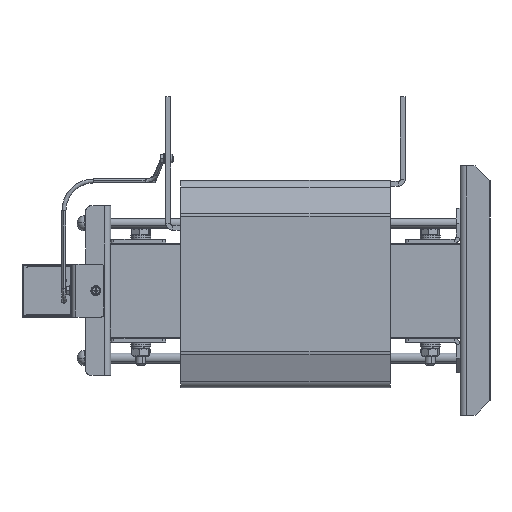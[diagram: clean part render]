
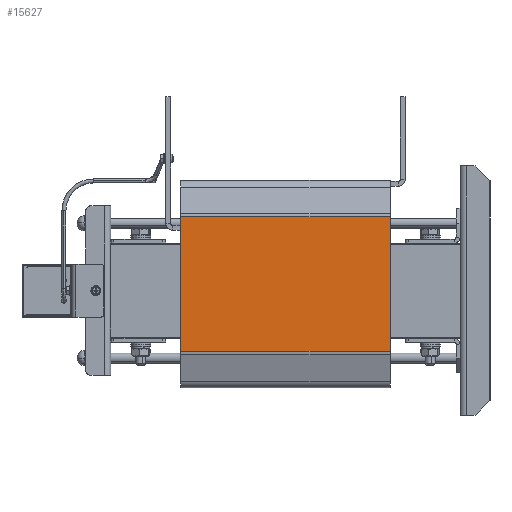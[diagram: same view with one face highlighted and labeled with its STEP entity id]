
A CAD part, left-side view. The second image highlights one B-rep face of the part: STEP entity #15627.
In plain terms, the highlighted planar face has unit normal (-1, 0, 0).
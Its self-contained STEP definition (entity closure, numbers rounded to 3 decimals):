
#210 = VERTEX_POINT ( 'NONE', #24538 ) ;
#289 = CARTESIAN_POINT ( 'NONE',  ( -60., 0., 69.833 ) ) ;
#1075 = CARTESIAN_POINT ( 'NONE',  ( -60., 210., 106.5 ) ) ;
#1760 = CARTESIAN_POINT ( 'NONE',  ( -60., 0., -64.833 ) ) ;
#2126 = LINE ( 'NONE', #24028, #4549 ) ;
#3923 = DIRECTION ( 'NONE',  ( 0., 1., 0. ) ) ;
#4549 = VECTOR ( 'NONE', #35813, 1000. ) ;
#4554 = EDGE_CURVE ( 'NONE', #31276, #10528, #30868, .T. ) ;
#6938 = FACE_OUTER_BOUND ( 'NONE', #27686, .T. ) ;
#8353 = VECTOR ( 'NONE', #25368, 1000. ) ;
#10454 = ORIENTED_EDGE ( 'NONE', *, *, #16258, .F. ) ;
#10528 = VERTEX_POINT ( 'NONE', #12377 ) ;
#10586 = VECTOR ( 'NONE', #10706, 1000. ) ;
#10706 = DIRECTION ( 'NONE',  ( 0., -1., 0. ) ) ;
#12326 = PLANE ( 'NONE',  #35544 ) ;
#12377 = CARTESIAN_POINT ( 'NONE',  ( -60., 210., 69.833 ) ) ;
#15305 = CARTESIAN_POINT ( 'NONE',  ( -60., 210., 106.5 ) ) ;
#15627 = ADVANCED_FACE ( 'NONE', ( #6938 ), #12326, .F. ) ;
#16258 = EDGE_CURVE ( 'NONE', #32522, #10528, #28370, .T. ) ;
#18168 = EDGE_CURVE ( 'NONE', #210, #31276, #2126, .T. ) ;
#19091 = DIRECTION ( 'NONE',  ( 0., 0., -1. ) ) ;
#19541 = ORIENTED_EDGE ( 'NONE', *, *, #18168, .T. ) ;
#21886 = DIRECTION ( 'NONE',  ( 1., 0., 0. ) ) ;
#24028 = CARTESIAN_POINT ( 'NONE',  ( -60., 0., 106.5 ) ) ;
#24538 = CARTESIAN_POINT ( 'NONE',  ( -60., 0., -64.833 ) ) ;
#25137 = EDGE_CURVE ( 'NONE', #32522, #210, #29242, .T. ) ;
#25368 = DIRECTION ( 'NONE',  ( 0., 0., 1. ) ) ;
#27686 = EDGE_LOOP ( 'NONE', ( #10454, #29377, #19541, #29241 ) ) ;
#28047 = VECTOR ( 'NONE', #3923, 1000. ) ;
#28370 = LINE ( 'NONE', #1075, #8353 ) ;
#29241 = ORIENTED_EDGE ( 'NONE', *, *, #4554, .T. ) ;
#29242 = LINE ( 'NONE', #1760, #10586 ) ;
#29377 = ORIENTED_EDGE ( 'NONE', *, *, #25137, .T. ) ;
#29799 = CARTESIAN_POINT ( 'NONE',  ( -60., 210., -64.833 ) ) ;
#30868 = LINE ( 'NONE', #31644, #28047 ) ;
#31276 = VERTEX_POINT ( 'NONE', #289 ) ;
#31644 = CARTESIAN_POINT ( 'NONE',  ( -60., 210., 69.833 ) ) ;
#32522 = VERTEX_POINT ( 'NONE', #29799 ) ;
#35544 = AXIS2_PLACEMENT_3D ( 'NONE', #15305, #21886, #19091 ) ;
#35813 = DIRECTION ( 'NONE',  ( 0., 0., 1. ) ) ;
